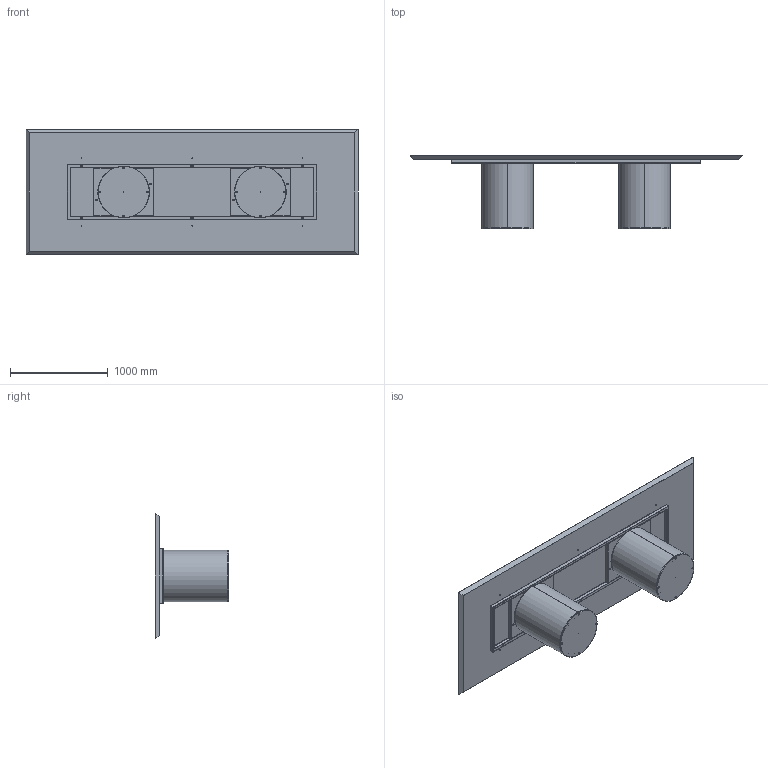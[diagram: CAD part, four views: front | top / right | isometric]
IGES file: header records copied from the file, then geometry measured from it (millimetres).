
Start section: SolidWorks IGES file using analytic representation for surfaces
Global section: file name: Y:\eforma\TECNICO\SOLIDWORKS\E-FORMA\1-TAVOLI\CILINDRO\02 parts\CI26W.IGS; native system: SolidWorks 2022; preprocessor: SolidWorks 2022; author: eforma.tech; date: 240808.091037; units: millimetre
Bounding box: 3400 x 748 x 1280 mm (x, y, z)
Volume: 174322636.4 mm3; surface area: 17939730.9 mm2
Topology: 34 solids, 34 shells, 1216 faces, 2796 edges, 1588 vertices
Faces by surface type: revolution 702, plane 514
